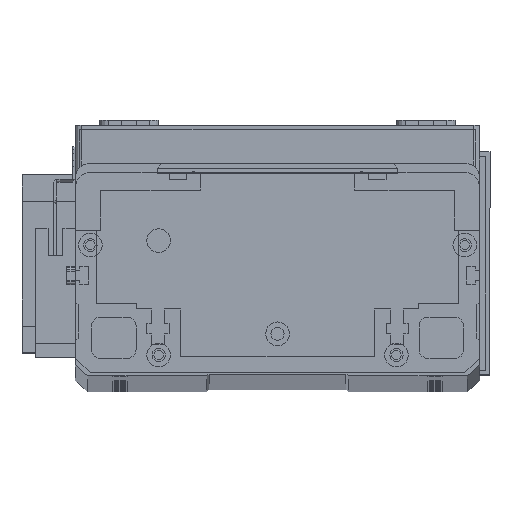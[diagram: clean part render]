
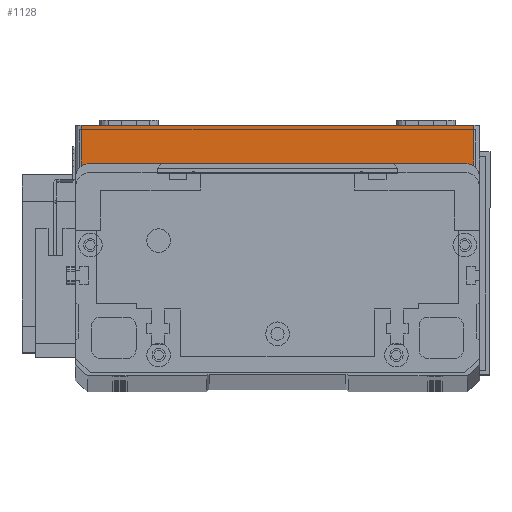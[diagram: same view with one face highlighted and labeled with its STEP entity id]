
A CAD part, top view. The second image highlights one B-rep face of the part: STEP entity #1128.
In plain terms, the highlighted planar face has unit normal (0, 0, 1) as drawn and (0, -1, 0) by its records, which use the part's own axes.
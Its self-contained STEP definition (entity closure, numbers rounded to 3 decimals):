
#716 = CARTESIAN_POINT ( 'NONE',  ( 0., 0., 19.5 ) ) ;
#1128 = ADVANCED_FACE ( 'NONE', ( #28046 ), #29899, .F. ) ;
#1598 = EDGE_LOOP ( 'NONE', ( #8584, #30584, #11855, #26717 ) ) ;
#1744 = CARTESIAN_POINT ( 'NONE',  ( 0., 0., 0. ) ) ;
#1961 = VERTEX_POINT ( 'NONE', #9260 ) ;
#2473 = LINE ( 'NONE', #716, #20978 ) ;
#3178 = DIRECTION ( 'NONE',  ( 1., 0., 0. ) ) ;
#3534 = EDGE_CURVE ( 'NONE', #1961, #7632, #29270, .T. ) ;
#5026 = CARTESIAN_POINT ( 'NONE',  ( 134., 0., 19.5 ) ) ;
#5949 = CARTESIAN_POINT ( 'NONE',  ( 134., 0., 0. ) ) ;
#6086 = VERTEX_POINT ( 'NONE', #5026 ) ;
#7196 = DIRECTION ( 'NONE',  ( 0., 0., 1. ) ) ;
#7303 = AXIS2_PLACEMENT_3D ( 'NONE', #30005, #29790, #29690 ) ;
#7632 = VERTEX_POINT ( 'NONE', #21325 ) ;
#8282 = LINE ( 'NONE', #1744, #26713 ) ;
#8584 = ORIENTED_EDGE ( 'NONE', *, *, #22528, .F. ) ;
#9260 = CARTESIAN_POINT ( 'NONE',  ( 2., 0., 19.5 ) ) ;
#9659 = CARTESIAN_POINT ( 'NONE',  ( 2., 0., 19.5 ) ) ;
#11318 = DIRECTION ( 'NONE',  ( 0., 0., -1. ) ) ;
#11855 = ORIENTED_EDGE ( 'NONE', *, *, #27683, .T. ) ;
#13966 = DIRECTION ( 'NONE',  ( 1., 0., 0. ) ) ;
#14509 = CARTESIAN_POINT ( 'NONE',  ( 134., 0., 19.5 ) ) ;
#16571 = VECTOR ( 'NONE', #11318, 1000. ) ;
#18765 = VERTEX_POINT ( 'NONE', #5949 ) ;
#19707 = EDGE_CURVE ( 'NONE', #18765, #6086, #27051, .T. ) ;
#19914 = VECTOR ( 'NONE', #7196, 1000. ) ;
#20978 = VECTOR ( 'NONE', #3178, 1000. ) ;
#21325 = CARTESIAN_POINT ( 'NONE',  ( 2., 0., 0. ) ) ;
#22528 = EDGE_CURVE ( 'NONE', #1961, #6086, #2473, .T. ) ;
#26713 = VECTOR ( 'NONE', #13966, 1000. ) ;
#26717 = ORIENTED_EDGE ( 'NONE', *, *, #19707, .T. ) ;
#27051 = LINE ( 'NONE', #14509, #19914 ) ;
#27683 = EDGE_CURVE ( 'NONE', #7632, #18765, #8282, .T. ) ;
#28046 = FACE_OUTER_BOUND ( 'NONE', #1598, .T. ) ;
#29270 = LINE ( 'NONE', #9659, #16571 ) ;
#29690 = DIRECTION ( 'NONE',  ( 0., 0., 1. ) ) ;
#29790 = DIRECTION ( 'NONE',  ( 0., 1., 0. ) ) ;
#29899 = PLANE ( 'NONE',  #7303 ) ;
#30005 = CARTESIAN_POINT ( 'NONE',  ( 0., 0., 19.5 ) ) ;
#30584 = ORIENTED_EDGE ( 'NONE', *, *, #3534, .T. ) ;
